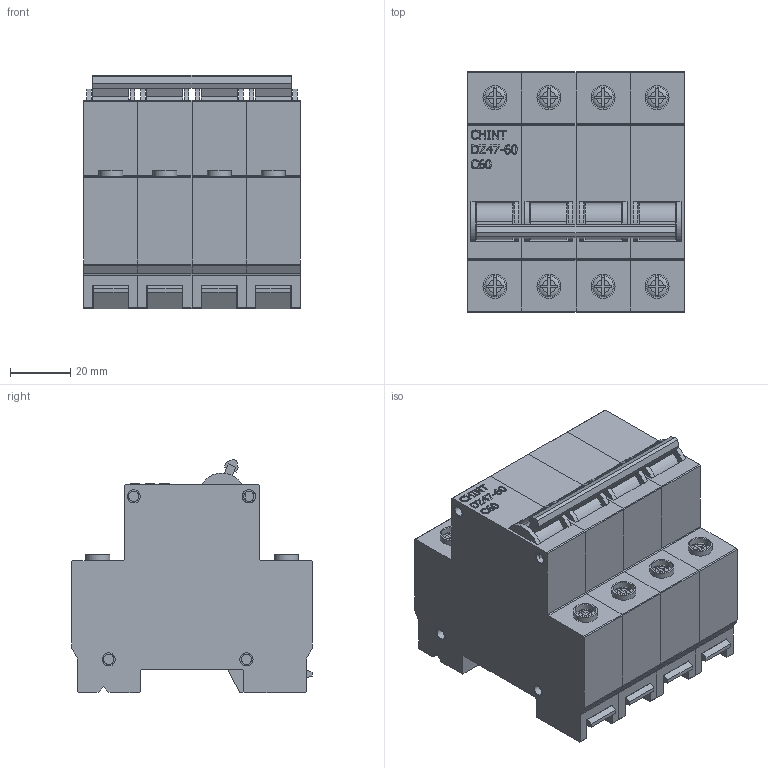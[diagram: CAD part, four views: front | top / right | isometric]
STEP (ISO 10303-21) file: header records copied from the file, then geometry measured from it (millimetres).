
FILE_DESCRIPTION(/* description */ (''),/* implementation_level */ '2;1');
FILE_NAME(/* name */ 'D:\CHINT\DZ47-60\Авт. выкл.DZ47-60 4P 16A 4.5kA х-ка B (CHINT).stp',/* time_stamp */ '2017-09-03T17:21:25+04:00',/* author */ ('RSagdiev'),/* organization */ (''),/* preprocessor_version */ 'ST-DEVELOPER v16.5',/* originating_system */ 'Autodesk Inventor 2017',/* authorisation */ '');
FILE_SCHEMA (('AUTOMOTIVE_DESIGN { 1 0 10303 214 3 1 1 }'));
Length unit declared in the file: millimetre
Products named in the file (1): Авт. выкл.DZ47-60 4P 16A 4.5kA \X2\0445
\X0\-ка B (CHINT)
Bounding box: 72 x 80 x 77.79 mm (x, y, z)
Volume: 309982.7 mm3; surface area: 74506.8 mm2
Topology: 53 solids, 53 shells, 898 faces, 2165 edges, 1430 vertices
Faces by surface type: plane 648, cylinder 140, bspline 102, torus 8
Full cylindrical faces by diameter (mm): 3.403 x48, 4.403 x48, 7 x8, 8 x8
Entity records: 26319 total; most frequent: CARTESIAN_POINT 5982, ORIENTED_EDGE 4050, DIRECTION 3871, EDGE_CURVE 2025, VERTEX_POINT 1414, LINE 1365, VECTOR 1365, AXIS2_PLACEMENT_3D 1253
